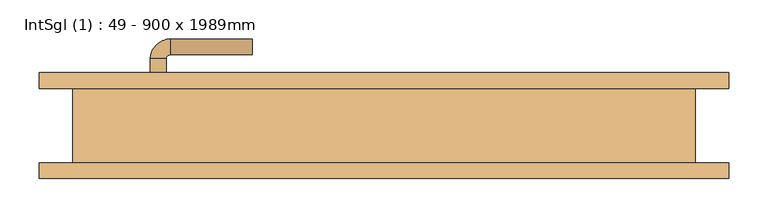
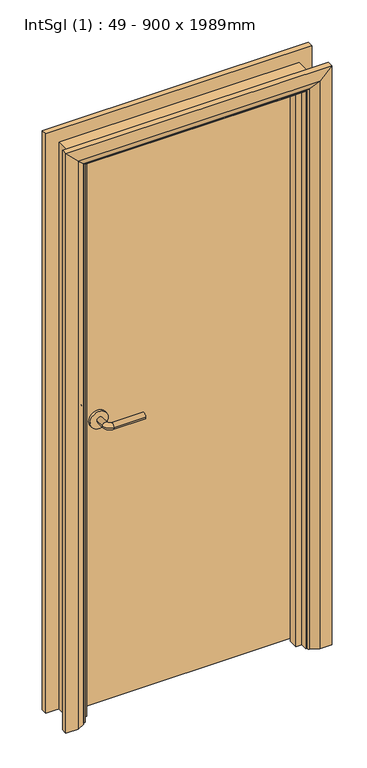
"""IFC4 building model written with IfcOpenShell, lengths in millimetres: door geometry, IntSgl (1) : 49 - 900 x 1989mm."""

from ifc_helpers import new_model, si_unit, point, frame, frame_2d, origin, place, context, project, spatial, polyline, circle_curve, ellipse_curve, trimmed, segment, composite_curve, outline, extrude, faceted_brep, source, transform, mapped, element, save
from ifc_brep_helpers import plane_surface, cylinder_surface, revolved_surface, advanced_brep


def intsgl_1_49_900_x_1989mm_72eeee74(model_context):
    return source(origin(), model_context, "Body", "SolidModel", [
        advanced_brep(
        [(-298.0, 1.5, 1000.0), (-278.0, 1.5, 1000.0), (-278.0, -28.5, 1000.0), (-298.0, -28.5, 1000.0), (-273.0, -33.5, 1000.0), (-273.0, -53.5, 1000.0), (-168.0, -53.5, 1000.0), (-168.0, -33.5, 1000.0)],
        [
            (0, 1, circle_curve(frame((-288.0, 1.5, 1000.0), z_axis=(0.0, 1.0, 0.0), x_axis=(1.0, 0.0, 0.0)), 10.0)),
            (1, 0, circle_curve(frame((-288.0, 1.5, 1000.0), z_axis=(0.0, 1.0, 0.0), x_axis=(1.0, 0.0, 0.0)), 10.0)),
            (1, 2),
            (2, 3, circle_curve(frame((-288.0, -28.5, 1000.0), z_axis=(0.0, 1.0, 0.0), x_axis=(1.0, 0.0, 0.0)), 10.0)),
            (3, 0),
            (3, 2, circle_curve(frame((-288.0, -28.5, 1000.0), z_axis=(0.0, 1.0, 0.0), x_axis=(1.0, 0.0, 0.0)), 10.0)),
            (4, 5, circle_curve(frame((-273.0, -43.5, 1000.0), z_axis=(-1.0, 0.0, 0.0), x_axis=(0.0, 1.0, 0.0)), 10.0)),
            (5, 3, circle_curve(frame((-273.0, -28.5, 1000.0), z_axis=(0.0, 0.0, -1.0), x_axis=(-1.0, 0.0, 0.0)), 25.0)),
            (2, 4, circle_curve(frame((-273.0, -28.5, 1000.0), z_axis=(0.0, 0.0, 1.0), x_axis=(-1.0, 0.0, 0.0)), 5.0)),
            (5, 4, circle_curve(frame((-273.0, -43.5, 1000.0), z_axis=(-1.0, 0.0, 0.0), x_axis=(0.0, 1.0, 0.0)), 10.0)),
            (6, 7, circle_curve(frame((-168.0, -43.5, 1000.0), z_axis=(1.0, 0.0, 0.0), x_axis=(0.0, 1.0, 0.0)), 10.0)),
            (7, 6, circle_curve(frame((-168.0, -43.5, 1000.0), z_axis=(1.0, 0.0, 0.0), x_axis=(0.0, 1.0, 0.0)), 10.0)),
            (4, 7),
            (6, 5),
        ],
        [
            plane_surface(frame((-288.0, 1.5, 1000.0), z_axis=(0.0, 1.0, 0.0), x_axis=(0.0, 0.0, 1.0))),
            cylinder_surface(frame((-288.0, 1.5, 1000.0), z_axis=(0.0, 1.0, 0.0), x_axis=(1.0, 0.0, 0.0)), 10.0),
            revolved_surface(trimmed(ellipse_curve(frame((-288.0, -28.5, 1000.0), z_axis=(0.0, -1.0, 0.0), x_axis=(1.0, 0.0, 0.0)), 10.0, 10.0), [point((-298.0, -28.5, 1000.0))], [point((-278.0, -28.5, 1000.0))], True, "CARTESIAN"), (-273.0, -28.5, 1000.0), (0.0, 0.0, -1.0)),
            revolved_surface(trimmed(ellipse_curve(frame((-288.0, -28.5, 1000.0), z_axis=(0.0, -1.0, 0.0), x_axis=(1.0, 0.0, 0.0)), 10.0, 10.0), [point((-278.0, -28.5, 1000.0))], [point((-298.0, -28.5, 1000.0))], True, "CARTESIAN"), (-273.0, -28.5, 1000.0), (0.0, 0.0, -1.0)),
            plane_surface(frame((-168.0, -43.5, 1000.0), z_axis=(1.0, 0.0, 0.0), x_axis=(0.0, 0.0, 1.0))),
            cylinder_surface(frame((-273.0, -43.5, 1000.0), z_axis=(-1.0, 0.0, 0.0), x_axis=(0.0, 1.0, 0.0)), 10.0),
        ],
        [
            (0, [[1, 2]]),
            (1, [[3, 4, 5, -2]]),
            (1, [[-5, 6, -3, -1]]),
            (2, [[7, 8, -4, 9]]),
            (3, [[10, -9, -6, -8]]),
            (4, [[11, 12]]),
            (5, [[13, -11, 14, -7]]),
            (5, [[-14, -12, -13, -10]]),
        ],
    ),
        extrude(outline(composite_curve([segment(trimmed(circle_curve(frame_2d((1000.0, -290.5)), 30.0), [point((1000.0, -320.5))], [point((1000.0, -260.5))], False, "CARTESIAN"), True, "CONTINUOUS"), segment(trimmed(circle_curve(frame_2d((1000.0, -290.5)), 30.0), [point((1000.0, -260.5))], [point((1000.0, -320.5))], False, "CARTESIAN"), True, "CONTINUOUS")], self_intersect=False)), frame((0.0, 1.5, 0.0), z_axis=(0.0, 1.0, 0.0), x_axis=(0.0, 0.0, 1.0)), (0.0, 0.0, 1.0), 8.0),
        advanced_brep(
        [(-298.0, 55.5, 1000.0), (-278.0, 55.5, 1000.0), (-298.0, 85.5, 1000.0), (-278.0, 85.5, 1000.0), (-273.0, 90.5, 1000.0), (-273.0, 110.5, 1000.0), (-168.0, 110.5, 1000.0), (-168.0, 90.5, 1000.0)],
        [
            (0, 1, circle_curve(frame((-288.0, 55.5, 1000.0), z_axis=(0.0, -1.0, 0.0), x_axis=(1.0, 0.0, 0.0)), 10.0)),
            (1, 0, circle_curve(frame((-288.0, 55.5, 1000.0), z_axis=(0.0, -1.0, 0.0), x_axis=(1.0, 0.0, 0.0)), 10.0)),
            (0, 2),
            (2, 3, circle_curve(frame((-288.0, 85.5, 1000.0), z_axis=(0.0, -1.0, 0.0), x_axis=(1.0, 0.0, 0.0)), 10.0)),
            (3, 1),
            (3, 2, circle_curve(frame((-288.0, 85.5, 1000.0), z_axis=(0.0, -1.0, 0.0), x_axis=(1.0, 0.0, 0.0)), 10.0)),
            (4, 3, circle_curve(frame((-273.0, 85.5, 1000.0), z_axis=(0.0, 0.0, 1.0), x_axis=(-1.0, 0.0, 0.0)), 5.0)),
            (2, 5, circle_curve(frame((-273.0, 85.5, 1000.0), z_axis=(0.0, 0.0, -1.0), x_axis=(-1.0, 0.0, 0.0)), 25.0)),
            (5, 4, circle_curve(frame((-273.0, 100.5, 1000.0), z_axis=(-1.0, 0.0, 0.0), x_axis=(0.0, -1.0, 0.0)), 10.0)),
            (4, 5, circle_curve(frame((-273.0, 100.5, 1000.0), z_axis=(-1.0, 0.0, 0.0), x_axis=(0.0, -1.0, 0.0)), 10.0)),
            (6, 7, circle_curve(frame((-168.0, 100.5, 1000.0), z_axis=(1.0, 0.0, 0.0), x_axis=(0.0, -1.0, 0.0)), 10.0)),
            (7, 6, circle_curve(frame((-168.0, 100.5, 1000.0), z_axis=(1.0, 0.0, 0.0), x_axis=(0.0, -1.0, 0.0)), 10.0)),
            (5, 6),
            (7, 4),
        ],
        [
            plane_surface(frame((-288.0, 55.5, 1000.0), z_axis=(0.0, -1.0, 0.0), x_axis=(0.0, 0.0, 1.0))),
            cylinder_surface(frame((-288.0, 55.5, 1000.0), z_axis=(0.0, -1.0, 0.0), x_axis=(1.0, 0.0, 0.0)), 10.0),
            revolved_surface(trimmed(ellipse_curve(frame((-288.0, 85.5, 1000.0), z_axis=(0.0, -1.0, 0.0), x_axis=(1.0, 0.0, 0.0)), 10.0, 10.0), [point((-298.0, 85.5, 1000.0))], [point((-278.0, 85.5, 1000.0))], True, "CARTESIAN"), (-273.0, 85.5, 1000.0), (0.0, 0.0, -1.0)),
            revolved_surface(trimmed(ellipse_curve(frame((-288.0, 85.5, 1000.0), z_axis=(0.0, -1.0, 0.0), x_axis=(1.0, 0.0, 0.0)), 10.0, 10.0), [point((-278.0, 85.5, 1000.0))], [point((-298.0, 85.5, 1000.0))], True, "CARTESIAN"), (-273.0, 85.5, 1000.0), (0.0, 0.0, -1.0)),
            plane_surface(frame((-168.0, 100.5, 1000.0), z_axis=(1.0, 0.0, 0.0), x_axis=(0.0, 0.0, 1.0))),
            cylinder_surface(frame((-273.0, 100.5, 1000.0), z_axis=(-1.0, 0.0, 0.0), x_axis=(0.0, -1.0, 0.0)), 10.0),
        ],
        [
            (0, [[1, 2]]),
            (1, [[-1, 3, 4, 5]]),
            (1, [[-2, -5, 6, -3]]),
            (2, [[7, -4, 8, 9]]),
            (3, [[-8, -6, -7, 10]]),
            (4, [[11, 12]]),
            (5, [[-9, 13, -12, 14]]),
            (5, [[-10, -14, -11, -13]]),
        ],
    ),
        extrude(outline(composite_curve([segment(trimmed(circle_curve(frame_2d((1000.0, -290.5)), 30.0), [point((1000.0, -320.5))], [point((1000.0, -260.5))], False, "CARTESIAN"), True, "CONTINUOUS"), segment(trimmed(circle_curve(frame_2d((1000.0, -290.5)), 30.0), [point((1000.0, -260.5))], [point((1000.0, -320.5))], False, "CARTESIAN"), True, "CONTINUOUS")], self_intersect=False)), frame((0.0, 47.5, 0.0), z_axis=(0.0, 1.0, 0.0), x_axis=(0.0, 0.0, 1.0)), (0.0, 0.0, 1.0), 8.0),
        extrude(outline(polyline([(363.0, 9.5), (-363.0, 9.5), (-363.0, 47.5), (363.0, 47.5), (363.0, 9.5)])), frame((0.0, 0.0, 8.0), z_axis=(0.0, 0.0, 1.0), x_axis=(1.0, 0.0, 0.0)), (0.0, 0.0, 1.0), 1939.0),
        advanced_brep(
        [(440.0, 67.5, 0.0), (440.0, 47.5, 0.0), (370.0, 47.5, 0.0), (374.0, 53.5, 0.0), (400.0, 67.5, 0.0), (440.0, 67.5, 2024.0), (440.0, 47.5, 2024.0), (-440.0, 47.5, 2024.0), (-440.0, 47.5, 0.0), (-370.0, 47.5, 0.0), (-370.0, 47.5, 1954.0), (370.0, 47.5, 1954.0), (374.0, 53.5, 1958.0), (400.0, 67.5, 1984.0), (-400.0, 67.5, 1984.0), (-400.0, 67.5, 0.0), (-440.0, 67.5, 0.0), (-440.0, 67.5, 2024.0), (-374.0, 53.5, 1958.0), (-374.0, 53.5, 0.0)],
        [
            (0, 1),
            (1, 2),
            (2, 3, circle_curve(frame((378.0, 46.5, 0.0), z_axis=(0.0, 0.0, -1.0), x_axis=(1.0, 0.0, 0.0)), 8.0622577)),
            (3, 4),
            (4, 0),
            (0, 5),
            (5, 6),
            (6, 1),
            (6, 7),
            (7, 8),
            (8, 9),
            (9, 10),
            (10, 11),
            (11, 2),
            (11, 12, ellipse_curve(frame((378.0, 46.5, 1962.0), z_axis=(0.7071067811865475, 0.0, -0.7071067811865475), x_axis=(-0.7071067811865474, 0.0, -0.7071067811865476)), 11.4017543, 8.0622577)),
            (12, 3),
            (12, 13),
            (13, 4),
            (13, 14),
            (14, 15),
            (15, 16),
            (16, 17),
            (17, 5),
            (17, 7),
            (10, 18, ellipse_curve(frame((-378.0, 46.5, 1962.0), z_axis=(0.7071067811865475, 0.0, 0.7071067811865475), x_axis=(0.7071067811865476, 0.0, -0.7071067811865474)), 11.4017543, 8.0622577)),
            (18, 12),
            (18, 14),
            (15, 19),
            (19, 9, circle_curve(frame((-378.0, 46.5, 0.0), z_axis=(0.0, 0.0, -1.0), x_axis=(-1.0, 0.0, 0.0)), 8.0622577)),
            (8, 16),
            (19, 18),
        ],
        [
            plane_surface(frame((370.0, 47.5, 0.0), z_axis=(0.0, 0.0, -1.0), x_axis=(0.0, -1.0, 0.0))),
            plane_surface(frame((440.0, 67.5, 0.0), z_axis=(1.0, 0.0, 0.0), x_axis=(0.0, 0.0, 1.0))),
            plane_surface(frame((440.0, 47.5, 0.0), z_axis=(0.0, -1.0, 0.0), x_axis=(0.0, 0.0, 1.0))),
            cylinder_surface(frame((378.0, 46.5, 0.0), z_axis=(0.0, 0.0, -1.0), x_axis=(1.0, 0.0, 0.0)), 8.0622577),
            plane_surface(frame((374.0, 53.5, 0.0), z_axis=(-0.4740998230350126, 0.880471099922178, 0.0), x_axis=(0.0, 0.0, 1.0))),
            plane_surface(frame((400.0, 67.5, 0.0), z_axis=(0.0, 1.0, 0.0), x_axis=(0.0, 0.0, 1.0))),
            plane_surface(frame((440.0, 67.5, 2024.0), z_axis=(0.0, 0.0, 1.0), x_axis=(-1.0, 0.0, 0.0))),
            cylinder_surface(frame((370.0, 46.5, 1962.0), z_axis=(1.0, 0.0, 0.0), x_axis=(0.0, 0.0, 1.0)), 8.0622577),
            plane_surface(frame((374.0, 53.5, 1958.0), z_axis=(0.0, 0.8804710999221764, -0.4740998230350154), x_axis=(-1.0, 0.0, 0.0))),
            plane_surface(frame((-370.0, 47.5, 0.0), z_axis=(0.0, 0.0, -1.0), x_axis=(0.0, -1.0, 0.0))),
            plane_surface(frame((-440.0, 67.5, 2024.0), z_axis=(-1.0, 0.0, 0.0), x_axis=(0.0, 0.0, -1.0))),
            cylinder_surface(frame((-378.0, 46.5, 1954.0), z_axis=(0.0, 0.0, 1.0), x_axis=(-1.0, 0.0, 0.0)), 8.0622577),
            plane_surface(frame((-374.0, 53.5, 1958.0), z_axis=(0.47409982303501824, 0.8804710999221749, 0.0), x_axis=(0.0, 0.0, -1.0))),
        ],
        [
            (0, [[1, 2, 3, 4, 5]]),
            (1, [[-1, 6, 7, 8]]),
            (2, [[-2, -8, 9, 10, 11, 12, 13, 14]]),
            (3, [[-3, -14, 15, 16]]),
            (4, [[-4, -16, 17, 18]]),
            (5, [[-5, -18, 19, 20, 21, 22, 23, -6]]),
            (6, [[-7, -23, 24, -9]]),
            (7, [[-15, -13, 25, 26]]),
            (8, [[-17, -26, 27, -19]]),
            (9, [[-21, 28, 29, -11, 30]]),
            (10, [[-24, -22, -30, -10]]),
            (11, [[-25, -12, -29, 31]]),
            (12, [[-27, -31, -28, -20]]),
        ],
    ),
        extrude(outline(polyline([(0.0, -365.0), (0.0, -346.0), (1930.0, -346.0), (1930.0, 346.0), (0.0, 346.0), (0.0, 365.0), (1949.0, 365.0), (1949.0, -365.0), (0.0, -365.0)])), frame((0.0, -24.5, 0.0), z_axis=(0.0, 1.0, 0.0), x_axis=(0.0, 0.0, 1.0)), (0.0, 0.0, 1.0), 32.0),
        advanced_brep(
        [(-440.0, -67.5, 0.0), (-440.0, -47.5, 0.0), (-370.0, -47.5, 0.0), (-374.0, -53.5, 0.0), (-400.0, -67.5, 0.0), (-440.0, -67.5, 2024.0), (-440.0, -47.5, 2024.0), (-370.0, -47.5, 1954.0), (-374.0, -53.5, 1958.0), (-400.0, -67.5, 1984.0), (440.0, -67.5, 2024.0), (440.0, -47.5, 2024.0), (370.0, -47.5, 1954.0), (374.0, -53.5, 1958.0), (400.0, -67.5, 1984.0), (440.0, -67.5, 0.0), (400.0, -67.5, 0.0), (374.0, -53.5, 0.0), (370.0, -47.5, 0.0), (440.0, -47.5, 0.0)],
        [
            (0, 1),
            (1, 2),
            (2, 3, circle_curve(frame((-378.0, -46.5, 0.0), z_axis=(0.0, 0.0, -1.0), x_axis=(-1.0, 0.0, 0.0)), 8.0622577)),
            (3, 4),
            (4, 0),
            (0, 5),
            (5, 6),
            (6, 1),
            (6, 7),
            (7, 2),
            (7, 8, ellipse_curve(frame((-378.0, -46.5, 1962.0), z_axis=(-0.7071067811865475, 0.0, -0.7071067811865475), x_axis=(0.7071067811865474, 0.0, -0.7071067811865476)), 11.4017543, 8.0622577)),
            (8, 3),
            (8, 9),
            (9, 4),
            (9, 5),
            (5, 10),
            (10, 11),
            (11, 6),
            (11, 12),
            (12, 7),
            (12, 13, ellipse_curve(frame((378.0, -46.5, 1962.0), z_axis=(-0.7071067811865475, 0.0, 0.7071067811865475), x_axis=(-0.7071067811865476, 0.0, -0.7071067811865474)), 11.4017543, 8.0622577)),
            (13, 8),
            (13, 14),
            (14, 9),
            (14, 10),
            (15, 16),
            (16, 17),
            (17, 18, circle_curve(frame((378.0, -46.5, 0.0), z_axis=(0.0, 0.0, -1.0), x_axis=(1.0, 0.0, 0.0)), 8.0622577)),
            (18, 19),
            (19, 15),
            (10, 15),
            (19, 11),
            (18, 12),
            (17, 13),
            (16, 14),
        ],
        [
            plane_surface(frame((-370.0, -120.3010989, 0.0), z_axis=(0.0, 0.0, -1.0), x_axis=(1.0, 0.0, 0.0))),
            plane_surface(frame((-440.0, -67.5, 0.0), z_axis=(-1.0, 0.0, 0.0), x_axis=(0.0, 0.0, 1.0))),
            plane_surface(frame((-440.0, -47.5, 0.0), z_axis=(0.0, 1.0, 0.0), x_axis=(0.0, 0.0, 1.0))),
            cylinder_surface(frame((-378.0, -46.5, 0.0), z_axis=(0.0, 0.0, -1.0), x_axis=(-1.0, 0.0, 0.0)), 8.0622577),
            plane_surface(frame((-374.0, -53.5, 0.0), z_axis=(0.4740998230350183, -0.8804710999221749, 0.0), x_axis=(0.0, 0.0, 1.0))),
            plane_surface(frame((-400.0, -67.5, 0.0), z_axis=(0.0, -1.0, 0.0), x_axis=(0.0, 0.0, 1.0))),
            plane_surface(frame((-440.0, -67.5, 2024.0), z_axis=(0.0, 0.0, 1.0), x_axis=(1.0, 0.0, 0.0))),
            plane_surface(frame((-440.0, -47.5, 2024.0), z_axis=(0.0, 1.0, 0.0), x_axis=(1.0, 0.0, 0.0))),
            cylinder_surface(frame((-370.0, -46.5, 1962.0), z_axis=(-1.0, 0.0, 0.0), x_axis=(0.0, 0.0, 1.0)), 8.0622577),
            plane_surface(frame((-374.0, -53.5, 1958.0), z_axis=(0.0, -0.8804710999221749, -0.4740998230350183), x_axis=(1.0, 0.0, 0.0))),
            plane_surface(frame((-400.0, -67.5, 1984.0), z_axis=(0.0, -1.0, 0.0), x_axis=(1.0, 0.0, 0.0))),
            plane_surface(frame((370.0, -120.3010989, 0.0), z_axis=(0.0, 0.0, -1.0), x_axis=(-1.0, 0.0, 0.0))),
            plane_surface(frame((440.0, -67.5, 2024.0), z_axis=(1.0, 0.0, 0.0), x_axis=(0.0, 0.0, -1.0))),
            plane_surface(frame((440.0, -47.5, 2024.0), z_axis=(0.0, 1.0, 0.0), x_axis=(0.0, 0.0, -1.0))),
            cylinder_surface(frame((378.0, -46.5, 1954.0), z_axis=(0.0, 0.0, 1.0), x_axis=(1.0, 0.0, 0.0)), 8.0622577),
            plane_surface(frame((374.0, -53.5, 1958.0), z_axis=(-0.4740998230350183, -0.8804710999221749, 0.0), x_axis=(0.0, 0.0, -1.0))),
            plane_surface(frame((400.0, -67.5, 1984.0), z_axis=(0.0, -1.0, 0.0), x_axis=(0.0, 0.0, -1.0))),
        ],
        [
            (0, [[1, 2, 3, 4, 5]]),
            (1, [[-1, 6, 7, 8]]),
            (2, [[-2, -8, 9, 10]]),
            (3, [[-3, -10, 11, 12]]),
            (4, [[-4, -12, 13, 14]]),
            (5, [[-5, -14, 15, -6]]),
            (6, [[-7, 16, 17, 18]]),
            (7, [[-9, -18, 19, 20]]),
            (8, [[-11, -20, 21, 22]]),
            (9, [[-13, -22, 23, 24]]),
            (10, [[-15, -24, 25, -16]]),
            (11, [[26, 27, 28, 29, 30]]),
            (12, [[-17, 31, -30, 32]]),
            (13, [[-19, -32, -29, 33]]),
            (14, [[-21, -33, -28, 34]]),
            (15, [[-23, -34, -27, 35]]),
            (16, [[-25, -35, -26, -31]]),
        ],
    ),
        faceted_brep([(-365.0, 47.5, 0.0), (-365.0, -47.5, 0.0), (-397.0, -47.5, 0.0), (-397.0, 47.5, 0.0), (-365.0, 47.5, 1949.0), (-365.0, -47.5, 1949.0), (-397.0, -47.5, 1981.0), (-397.0, 47.5, 1981.0), (365.0, 47.5, 1949.0), (365.0, -47.5, 1949.0), (397.0, -47.5, 1981.0), (397.0, 47.5, 1981.0), (365.0, 47.5, 0.0), (397.0, 47.5, 0.0), (397.0, -47.5, 0.0), (365.0, -47.5, 0.0)], [[[0, 1, 2, 3]], [[1, 0, 4, 5]], [[2, 1, 5, 6]], [[3, 2, 6, 7]], [[0, 3, 7, 4]], [[5, 4, 8, 9]], [[6, 5, 9, 10]], [[7, 6, 10, 11]], [[4, 7, 11, 8]], [[12, 13, 14, 15]], [[9, 8, 12, 15]], [[10, 9, 15, 14]], [[11, 10, 14, 13]], [[8, 11, 13, 12]]]),
    ])


if __name__ == "__main__":
    model = new_model("IFC4")
    model_context = context("Model", 3, world=origin())
    ifc_project = project(units=[si_unit("LENGTHUNIT", "METRE", prefix="MILLI")], contexts=[model_context])
    site = spatial("IfcSite", under=ifc_project)
    building = spatial("IfcBuilding", under=site)
    placement = place(None, origin())
    intsgl_1_49_900_x_1989mm_shape = intsgl_1_49_900_x_1989mm_72eeee74(model_context)
    element("IfcDoor", 1, ObjectType="IntSgl (1) : 49 - 900 x 1989mm", at=placement, inside=building, context=model_context, shape_type="MappedRepresentation", body=[
        mapped(intsgl_1_49_900_x_1989mm_shape, transform((0.0, 0.0, 0.0), x_axis=(1.0, 0.0, 0.0), y_axis=(0.0, 1.0, 0.0), z_axis=(0.0, 0.0, 1.0))),
    ])
    save(model, "model.ifc")
